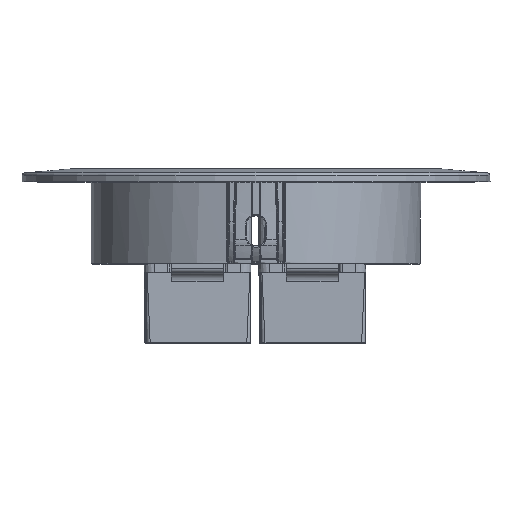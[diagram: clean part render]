
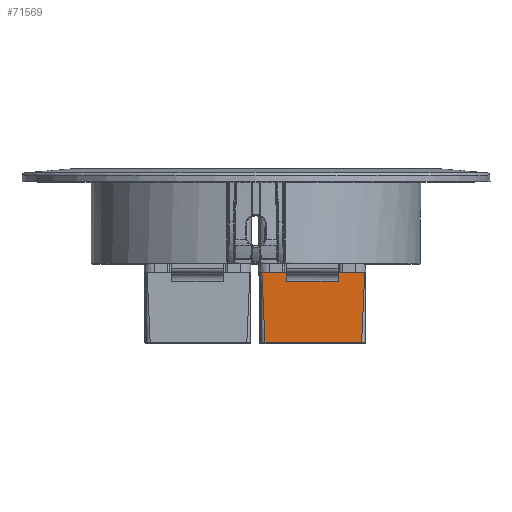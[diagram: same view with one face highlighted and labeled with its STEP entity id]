
A CAD part, top view. The second image highlights one B-rep face of the part: STEP entity #71569.
In plain terms, the highlighted planar face has unit normal (0, -0.009, 1).
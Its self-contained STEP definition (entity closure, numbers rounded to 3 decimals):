
#3386=B_SPLINE_CURVE_WITH_KNOTS('',3,(#141464,#141465,#141466,#141467),
 .UNSPECIFIED.,.F.,.F.,(4,4),(-0.062,-0.039),
 .UNSPECIFIED.);
#3387=B_SPLINE_CURVE_WITH_KNOTS('',3,(#141470,#141471,#141472,#141473),
 .UNSPECIFIED.,.F.,.F.,(4,4),(0.06,0.083),
 .UNSPECIFIED.);
#7812=FACE_OUTER_BOUND('',#12141,.T.);
#12141=EDGE_LOOP('',(#59982,#59983,#59984,#59985,#59986,#59987,#59988,#59989,
#59990,#59991,#59992,#59993,#59994,#59995,#59996,#59997));
#17678=LINE('',#135981,#23620);
#17682=LINE('',#135989,#23624);
#17739=LINE('',#136138,#23681);
#17993=LINE('',#141266,#23935);
#17994=LINE('',#141270,#23936);
#18003=LINE('',#141300,#23945);
#18004=LINE('',#141303,#23946);
#18042=LINE('',#141469,#23984);
#18043=LINE('',#141475,#23985);
#18044=LINE('',#141478,#23986);
#18045=LINE('',#141479,#23987);
#18046=LINE('',#141481,#23988);
#23620=VECTOR('',#90756,1.205);
#23624=VECTOR('',#90760,1.205);
#23681=VECTOR('',#90857,1.425);
#23935=VECTOR('',#91369,1.983);
#23936=VECTOR('',#91374,1.983);
#23945=VECTOR('',#91399,0.975);
#23946=VECTOR('',#91402,6.521);
#23984=VECTOR('',#91484,22.303);
#23985=VECTOR('',#91485,6.521);
#23986=VECTOR('',#91488,3.572);
#23987=VECTOR('',#91489,11.997);
#23988=VECTOR('',#91490,3.572);
#27121=CIRCLE('',#77060,0.1);
#27122=CIRCLE('',#77061,0.1);
#32461=VERTEX_POINT('',#135978);
#32462=VERTEX_POINT('',#135980);
#32465=VERTEX_POINT('',#135986);
#32466=VERTEX_POINT('',#135988);
#32508=VERTEX_POINT('',#136101);
#32517=VERTEX_POINT('',#136124);
#32519=VERTEX_POINT('',#136137);
#32849=VERTEX_POINT('',#140925);
#32898=VERTEX_POINT('',#141265);
#32899=VERTEX_POINT('',#141269);
#32909=VERTEX_POINT('',#141302);
#32961=VERTEX_POINT('',#141463);
#32962=VERTEX_POINT('',#141468);
#32963=VERTEX_POINT('',#141474);
#32964=VERTEX_POINT('',#141476);
#32965=VERTEX_POINT('',#141480);
#41709=EDGE_CURVE('',#32462,#32461,#17678,.T.);
#41713=EDGE_CURVE('',#32466,#32465,#17682,.T.);
#41781=EDGE_CURVE('',#32519,#32517,#17739,.T.);
#42222=EDGE_CURVE('',#32465,#32898,#17993,.T.);
#42224=EDGE_CURVE('',#32899,#32462,#17994,.T.);
#42239=EDGE_CURVE('',#32508,#32849,#18003,.T.);
#42240=EDGE_CURVE('',#32909,#32508,#18004,.T.);
#42298=EDGE_CURVE('',#32849,#32961,#3386,.T.);
#42299=EDGE_CURVE('',#32961,#32962,#18042,.T.);
#42300=EDGE_CURVE('',#32962,#32519,#3387,.T.);
#42301=EDGE_CURVE('',#32517,#32963,#18043,.T.);
#42302=EDGE_CURVE('',#32963,#32964,#27121,.T.);
#42303=EDGE_CURVE('',#32466,#32964,#18044,.T.);
#42304=EDGE_CURVE('',#32898,#32899,#18045,.T.);
#42305=EDGE_CURVE('',#32965,#32461,#18046,.T.);
#42306=EDGE_CURVE('',#32965,#32909,#27122,.T.);
#59982=ORIENTED_EDGE('',*,*,#42298,.T.);
#59983=ORIENTED_EDGE('',*,*,#42299,.T.);
#59984=ORIENTED_EDGE('',*,*,#42300,.T.);
#59985=ORIENTED_EDGE('',*,*,#41781,.T.);
#59986=ORIENTED_EDGE('',*,*,#42301,.T.);
#59987=ORIENTED_EDGE('',*,*,#42302,.T.);
#59988=ORIENTED_EDGE('',*,*,#42303,.F.);
#59989=ORIENTED_EDGE('',*,*,#41713,.T.);
#59990=ORIENTED_EDGE('',*,*,#42222,.T.);
#59991=ORIENTED_EDGE('',*,*,#42304,.T.);
#59992=ORIENTED_EDGE('',*,*,#42224,.T.);
#59993=ORIENTED_EDGE('',*,*,#41709,.T.);
#59994=ORIENTED_EDGE('',*,*,#42305,.F.);
#59995=ORIENTED_EDGE('',*,*,#42306,.T.);
#59996=ORIENTED_EDGE('',*,*,#42240,.T.);
#59997=ORIENTED_EDGE('',*,*,#42239,.T.);
#68395=PLANE('',#77059);
#71569=ADVANCED_FACE('',(#7812),#68395,.F.);
#77059=AXIS2_PLACEMENT_3D('',#141462,#91482,#91483);
#77060=AXIS2_PLACEMENT_3D('',#141477,#91486,#91487);
#77061=AXIS2_PLACEMENT_3D('',#141482,#91491,#91492);
#90756=DIRECTION('',(-1.,0.,0.));
#90760=DIRECTION('',(-1.,0.,0.));
#90857=DIRECTION('',(-1.,0.,0.));
#91369=DIRECTION('',(-0.009,-1.,-0.009));
#91374=DIRECTION('',(-0.009,1.,0.009));
#91399=DIRECTION('',(-1.,0.,0.));
#91402=DIRECTION('',(-0.009,1.,0.009));
#91482=DIRECTION('center_axis',(0.,0.009,
-1.));
#91483=DIRECTION('ref_axis',(0.,1.,0.009));
#91484=DIRECTION('',(1.,0.,0.));
#91485=DIRECTION('',(-0.009,-1.,-0.009));
#91486=DIRECTION('center_axis',(0.,0.009,
-1.));
#91487=DIRECTION('ref_axis',(0.,-1.,-0.009));
#91488=DIRECTION('',(1.,0.,0.));
#91489=DIRECTION('',(-1.,0.,0.));
#91490=DIRECTION('',(1.,0.,0.));
#91491=DIRECTION('center_axis',(0.,0.009,
-1.));
#91492=DIRECTION('ref_axis',(-1.,-0.009,0.));
#135978=CARTESIAN_POINT('',(5.782,-2.,16.111));
#135980=CARTESIAN_POINT('',(6.988,-2.,16.111));
#135981=CARTESIAN_POINT('',(0.503,-2.,16.111));
#135986=CARTESIAN_POINT('',(19.019,-2.,16.111));
#135988=CARTESIAN_POINT('',(20.224,-2.,16.111));
#135989=CARTESIAN_POINT('',(0.503,-2.,16.111));
#136101=CARTESIAN_POINT('',(2.053,4.62,16.169));
#136124=CARTESIAN_POINT('',(23.953,4.62,16.169));
#136137=CARTESIAN_POINT('',(25.378,4.62,16.169));
#136138=CARTESIAN_POINT('',(0.503,4.62,16.169));
#140925=CARTESIAN_POINT('',(1.079,4.62,16.169));
#141265=CARTESIAN_POINT('',(19.002,-3.983,16.094));
#141266=CARTESIAN_POINT('',(19.018,-2.162,16.109));
#141269=CARTESIAN_POINT('',(7.005,-3.983,16.094));
#141270=CARTESIAN_POINT('',(6.99,-2.269,16.109));
#141300=CARTESIAN_POINT('',(0.503,4.62,16.169));
#141302=CARTESIAN_POINT('',(2.11,-1.901,16.112));
#141303=CARTESIAN_POINT('',(2.111,-1.986,16.111));
#141462=CARTESIAN_POINT('Origin',(0.503,-2.,16.111));
#141463=CARTESIAN_POINT('',(2.077,-18.102,15.97));
#141464=CARTESIAN_POINT('Ctrl Pts',(1.079,4.62,16.169));
#141465=CARTESIAN_POINT('Ctrl Pts',(1.541,-2.953,
16.103));
#141466=CARTESIAN_POINT('Ctrl Pts',(2.004,-10.526,
16.037));
#141467=CARTESIAN_POINT('Ctrl Pts',(2.077,-18.102,
15.97));
#141468=CARTESIAN_POINT('',(24.38,-18.102,15.97));
#141469=CARTESIAN_POINT('',(0.503,-18.102,15.97));
#141470=CARTESIAN_POINT('Ctrl Pts',(24.38,-18.102,
15.97));
#141471=CARTESIAN_POINT('Ctrl Pts',(24.452,-10.526,
16.037));
#141472=CARTESIAN_POINT('Ctrl Pts',(24.915,-2.953,
16.103));
#141473=CARTESIAN_POINT('Ctrl Pts',(25.378,4.62,16.169));
#141474=CARTESIAN_POINT('',(23.896,-1.901,16.112));
#141475=CARTESIAN_POINT('',(23.894,-2.204,16.109));
#141476=CARTESIAN_POINT('',(23.796,-2.,16.111));
#141477=CARTESIAN_POINT('Origin',(23.796,-1.9,16.112));
#141478=CARTESIAN_POINT('',(0.503,-2.,16.111));
#141479=CARTESIAN_POINT('',(6.988,-3.983,16.094));
#141480=CARTESIAN_POINT('',(2.21,-2.,16.111));
#141481=CARTESIAN_POINT('',(0.503,-2.,16.111));
#141482=CARTESIAN_POINT('Origin',(2.21,-1.9,16.112));
